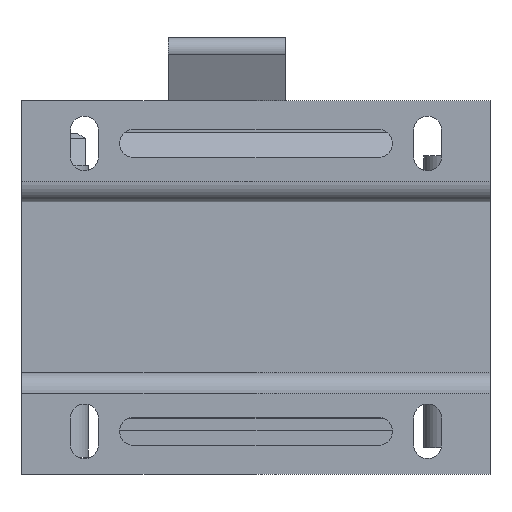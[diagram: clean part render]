
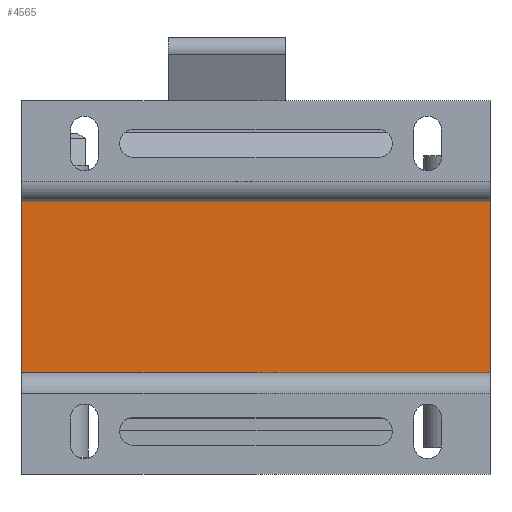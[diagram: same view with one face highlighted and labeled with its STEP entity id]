
A CAD part, front view. The second image highlights one B-rep face of the part: STEP entity #4565.
In plain terms, the highlighted planar face has unit normal (0, -1, 0).
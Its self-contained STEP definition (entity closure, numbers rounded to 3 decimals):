
#32 = DIRECTION ( 'NONE',  ( 0., 0., -1. ) ) ;
#232 = CARTESIAN_POINT ( 'NONE',  ( -30., 4.5, 10.95 ) ) ;
#255 = LINE ( 'NONE', #4627, #791 ) ;
#403 = FACE_OUTER_BOUND ( 'NONE', #2667, .T. ) ;
#521 = CARTESIAN_POINT ( 'NONE',  ( 30., 4.5, 10.95 ) ) ;
#624 = VERTEX_POINT ( 'NONE', #521 ) ;
#791 = VECTOR ( 'NONE', #1020, 1000. ) ;
#828 = VECTOR ( 'NONE', #4065, 1000. ) ;
#904 = ORIENTED_EDGE ( 'NONE', *, *, #1742, .T. ) ;
#1020 = DIRECTION ( 'NONE',  ( 0., 0., 1. ) ) ;
#1103 = CARTESIAN_POINT ( 'NONE',  ( -30., 4.5, -89.252 ) ) ;
#1667 = CARTESIAN_POINT ( 'NONE',  ( -30., 4.5, -89.252 ) ) ;
#1725 = CARTESIAN_POINT ( 'NONE',  ( -30., 4.5, -10.95 ) ) ;
#1742 = EDGE_CURVE ( 'NONE', #624, #2633, #2536, .T. ) ;
#2117 = CARTESIAN_POINT ( 'NONE',  ( -30., 4.5, 10.95 ) ) ;
#2201 = CARTESIAN_POINT ( 'NONE',  ( 30., 4.5, -10.95 ) ) ;
#2333 = DIRECTION ( 'NONE',  ( 0., 0., 1. ) ) ;
#2379 = LINE ( 'NONE', #1103, #3978 ) ;
#2405 = VECTOR ( 'NONE', #3716, 1000. ) ;
#2518 = DIRECTION ( 'NONE',  ( 0., -1., 0. ) ) ;
#2536 = LINE ( 'NONE', #2117, #2405 ) ;
#2583 = AXIS2_PLACEMENT_3D ( 'NONE', #1667, #2518, #32 ) ;
#2633 = VERTEX_POINT ( 'NONE', #232 ) ;
#2667 = EDGE_LOOP ( 'NONE', ( #904, #3121, #3602, #4615 ) ) ;
#2692 = VERTEX_POINT ( 'NONE', #4344 ) ;
#2716 = EDGE_CURVE ( 'NONE', #3817, #624, #255, .T. ) ;
#2871 = LINE ( 'NONE', #1725, #828 ) ;
#3121 = ORIENTED_EDGE ( 'NONE', *, *, #3931, .F. ) ;
#3229 = PLANE ( 'NONE',  #2583 ) ;
#3602 = ORIENTED_EDGE ( 'NONE', *, *, #4252, .T. ) ;
#3716 = DIRECTION ( 'NONE',  ( -1., 0., 0. ) ) ;
#3817 = VERTEX_POINT ( 'NONE', #2201 ) ;
#3931 = EDGE_CURVE ( 'NONE', #2692, #2633, #2379, .T. ) ;
#3978 = VECTOR ( 'NONE', #2333, 1000. ) ;
#4065 = DIRECTION ( 'NONE',  ( 1., 0., 0. ) ) ;
#4252 = EDGE_CURVE ( 'NONE', #2692, #3817, #2871, .T. ) ;
#4344 = CARTESIAN_POINT ( 'NONE',  ( -30., 4.5, -10.95 ) ) ;
#4565 = ADVANCED_FACE ( 'NONE', ( #403 ), #3229, .T. ) ;
#4615 = ORIENTED_EDGE ( 'NONE', *, *, #2716, .T. ) ;
#4627 = CARTESIAN_POINT ( 'NONE',  ( 30., 4.5, -89.252 ) ) ;
